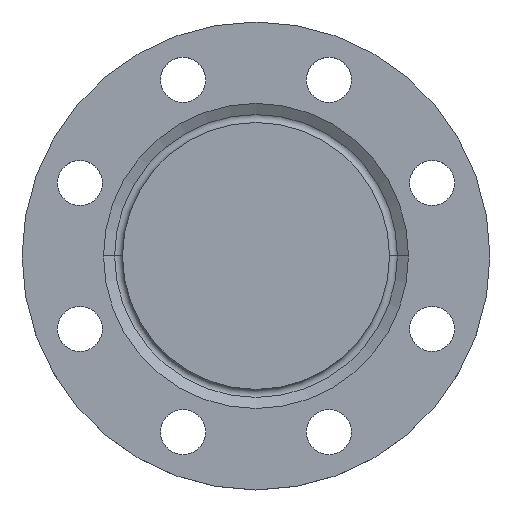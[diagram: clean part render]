
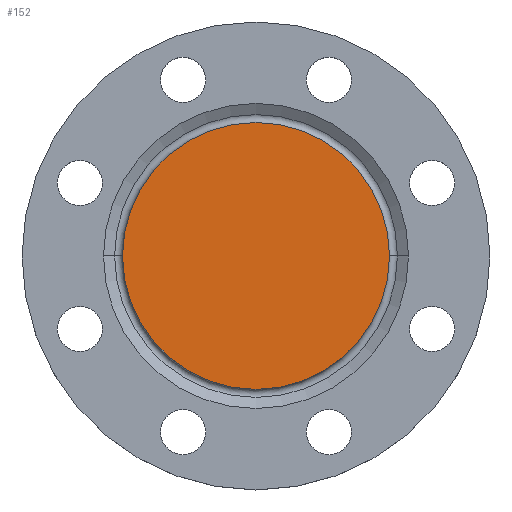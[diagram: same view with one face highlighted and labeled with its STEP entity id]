
A CAD part, top view. The second image highlights one B-rep face of the part: STEP entity #152.
In plain terms, the highlighted planar face has unit normal (0, 0, 1).
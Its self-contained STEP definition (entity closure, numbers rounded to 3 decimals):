
#28 = DIRECTION ( 'NONE',  ( 0., 0., -1. ) ) ;
#152 = ADVANCED_FACE ( 'NONE', ( #971 ), #961, .T. ) ;
#307 = CARTESIAN_POINT ( 'NONE',  ( 0., 0., 0. ) ) ;
#371 = AXIS2_PLACEMENT_3D ( 'NONE', #975, #570, #739 ) ;
#430 = AXIS2_PLACEMENT_3D ( 'NONE', #307, #28, #691 ) ;
#500 = VERTEX_POINT ( 'NONE', #532 ) ;
#512 = AXIS2_PLACEMENT_3D ( 'NONE', #959, #820, #822 ) ;
#532 = CARTESIAN_POINT ( 'NONE',  ( -77., 0., 0. ) ) ;
#556 = EDGE_LOOP ( 'NONE', ( #645, #643 ) ) ;
#570 = DIRECTION ( 'NONE',  ( 0., 0., -1. ) ) ;
#643 = ORIENTED_EDGE ( 'NONE', *, *, #1000, .F. ) ;
#645 = ORIENTED_EDGE ( 'NONE', *, *, #752, .F. ) ;
#691 = DIRECTION ( 'NONE',  ( -1., 0., 0. ) ) ;
#725 = VERTEX_POINT ( 'NONE', #999 ) ;
#739 = DIRECTION ( 'NONE',  ( -1., 0., 0. ) ) ;
#752 = EDGE_CURVE ( 'NONE', #500, #725, #1041, .T. ) ;
#820 = DIRECTION ( 'NONE',  ( 0., 0., 1. ) ) ;
#822 = DIRECTION ( 'NONE',  ( 1., 0., 0. ) ) ;
#894 = CIRCLE ( 'NONE', #371, 77. ) ;
#959 = CARTESIAN_POINT ( 'NONE',  ( 0., 0., 0. ) ) ;
#961 = PLANE ( 'NONE',  #512 ) ;
#971 = FACE_OUTER_BOUND ( 'NONE', #556, .T. ) ;
#975 = CARTESIAN_POINT ( 'NONE',  ( 0., 0., 0. ) ) ;
#999 = CARTESIAN_POINT ( 'NONE',  ( 77., 0., 0. ) ) ;
#1000 = EDGE_CURVE ( 'NONE', #725, #500, #894, .T. ) ;
#1041 = CIRCLE ( 'NONE', #430, 77. ) ;
